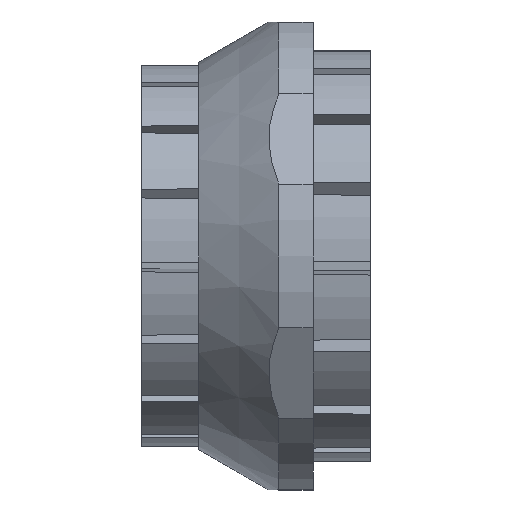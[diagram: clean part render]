
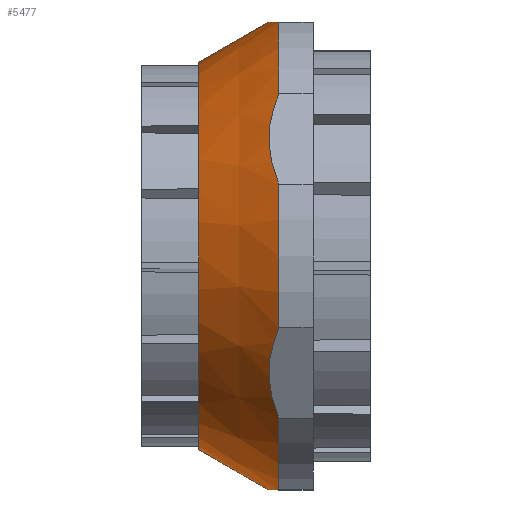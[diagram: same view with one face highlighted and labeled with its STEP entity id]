
A CAD part, left-side view. The second image highlights one B-rep face of the part: STEP entity #5477.
In plain terms, the highlighted conical face has half-angle 30 degrees and reference radius 16.959 mm.
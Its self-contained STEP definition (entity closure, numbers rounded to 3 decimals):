
#77 = VERTEX_POINT ( 'NONE', #5038 ) ;
#135 = VERTEX_POINT ( 'NONE', #1113 ) ;
#153 = ORIENTED_EDGE ( 'NONE', *, *, #618, .T. ) ;
#189 = CARTESIAN_POINT ( 'NONE',  ( 0., 35., -16.959 ) ) ;
#208 = CARTESIAN_POINT ( 'NONE',  ( -4.555, 28., -20.5 ) ) ;
#322 = CIRCLE ( 'NONE', #3426, 16.959 ) ;
#351 = VERTEX_POINT ( 'NONE', #5191 ) ;
#353 = CARTESIAN_POINT ( 'NONE',  ( -16.409, 28.568, 12.579 ) ) ;
#417 = AXIS2_PLACEMENT_3D ( 'NONE', #2520, #5686, #4769 ) ;
#463 = CARTESIAN_POINT ( 'NONE',  ( -18.529, 28.789, -8.907 ) ) ;
#550 = DIRECTION ( 'NONE',  ( 0., 0., -1. ) ) ;
#566 = ORIENTED_EDGE ( 'NONE', *, *, #3073, .T. ) ;
#580 = DIRECTION ( 'NONE',  ( 0., 1., 0. ) ) ;
#618 = EDGE_CURVE ( 'NONE', #5499, #77, #5078, .T. ) ;
#772 = DIRECTION ( 'NONE',  ( 0., 0., -1. ) ) ;
#840 = ORIENTED_EDGE ( 'NONE', *, *, #3228, .T. ) ;
#848 = CARTESIAN_POINT ( 'NONE',  ( -15.842, 28.275, -13.56 ) ) ;
#855 = CARTESIAN_POINT ( 'NONE',  ( -4.555, 28., 20.5 ) ) ;
#881 = EDGE_CURVE ( 'NONE', #1557, #3248, #322, .T. ) ;
#922 = CARTESIAN_POINT ( 'NONE',  ( -17.362, 28.846, -10.927 ) ) ;
#1016 = DIRECTION ( 'NONE',  ( 0., -0.866, 0.5 ) ) ;
#1113 = CARTESIAN_POINT ( 'NONE',  ( 0., 28.866, -20.5 ) ) ;
#1213 = VERTEX_POINT ( 'NONE', #2539 ) ;
#1259 = CARTESIAN_POINT ( 'NONE',  ( -16.22, 28.477, 12.906 ) ) ;
#1276 = CARTESIAN_POINT ( 'NONE',  ( -17.948, 28.866, 9.913 ) ) ;
#1302 = DIRECTION ( 'NONE',  ( 0., 0., -1. ) ) ;
#1313 = CARTESIAN_POINT ( 'NONE',  ( -19.848, 28.138, -6.623 ) ) ;
#1331 = VERTEX_POINT ( 'NONE', #4484 ) ;
#1357 = CARTESIAN_POINT ( 'NONE',  ( -20.031, 28., -6.305 ) ) ;
#1365 = VERTEX_POINT ( 'NONE', #855 ) ;
#1440 = CARTESIAN_POINT ( 'NONE',  ( 0., 28.866, 20.5 ) ) ;
#1446 = DIRECTION ( 'NONE',  ( 0., 0., -1. ) ) ;
#1533 = EDGE_CURVE ( 'NONE', #1365, #351, #3199, .T. ) ;
#1557 = VERTEX_POINT ( 'NONE', #2684 ) ;
#1586 = CIRCLE ( 'NONE', #1685, 21. ) ;
#1685 = AXIS2_PLACEMENT_3D ( 'NONE', #5783, #3003, #772 ) ;
#1724 = CARTESIAN_POINT ( 'NONE',  ( -15.659, 28.138, 13.877 ) ) ;
#1769 = CARTESIAN_POINT ( 'NONE',  ( -19.287, 28.477, -7.594 ) ) ;
#1825 = EDGE_CURVE ( 'NONE', #4944, #5499, #1586, .T. ) ;
#1900 = LINE ( 'NONE', #2358, #4469 ) ;
#1907 = DIRECTION ( 'NONE',  ( 0., -1., 0. ) ) ;
#1948 = CARTESIAN_POINT ( 'NONE',  ( 0., 35., 0. ) ) ;
#1963 = ORIENTED_EDGE ( 'NONE', *, *, #2760, .T. ) ;
#2029 = CARTESIAN_POINT ( 'NONE',  ( -20.031, 28., 6.305 ) ) ;
#2091 = CARTESIAN_POINT ( 'NONE',  ( -19.665, 28.275, 6.94 ) ) ;
#2136 = EDGE_CURVE ( 'NONE', #1557, #135, #5689, .T. ) ;
#2165 = ORIENTED_EDGE ( 'NONE', *, *, #1825, .T. ) ;
#2187 = CARTESIAN_POINT ( 'NONE',  ( -17.559, 28.866, -10.587 ) ) ;
#2236 = DIRECTION ( 'NONE',  ( 0., 1., 0. ) ) ;
#2349 = CIRCLE ( 'NONE', #5711, 21. ) ;
#2358 = CARTESIAN_POINT ( 'NONE',  ( 0., 35., 16.959 ) ) ;
#2367 = B_SPLINE_CURVE_WITH_KNOTS ( 'NONE', 3,
 ( #4573, #2395, #4237, #208 ),
 .UNSPECIFIED., .F., .F.,
 ( 4, 4 ),
 ( 0., 0.005 ),
 .UNSPECIFIED. ) ;
#2395 = CARTESIAN_POINT ( 'NONE',  ( -1.573, 28.866, -20.5 ) ) ;
#2520 = CARTESIAN_POINT ( 'NONE',  ( 0., 28., 0. ) ) ;
#2539 = CARTESIAN_POINT ( 'NONE',  ( -4.555, 28., -20.5 ) ) ;
#2678 = CARTESIAN_POINT ( 'NONE',  ( -18.144, 28.866, -9.573 ) ) ;
#2684 = CARTESIAN_POINT ( 'NONE',  ( 0., 35., -16.959 ) ) ;
#2707 = CARTESIAN_POINT ( 'NONE',  ( -3.087, 28.552, 20.5 ) ) ;
#2752 = CARTESIAN_POINT ( 'NONE',  ( -1.573, 28.866, 20.5 ) ) ;
#2760 = EDGE_CURVE ( 'NONE', #77, #1365, #2349, .T. ) ;
#2816 = CARTESIAN_POINT ( 'NONE',  ( 0., 35., 0. ) ) ;
#2869 = ORIENTED_EDGE ( 'NONE', *, *, #881, .F. ) ;
#2898 = DIRECTION ( 'NONE',  ( 0., -0.866, -0.5 ) ) ;
#2916 = ORIENTED_EDGE ( 'NONE', *, *, #2136, .T. ) ;
#3003 = DIRECTION ( 'NONE',  ( 0., 1., 0. ) ) ;
#3073 = EDGE_CURVE ( 'NONE', #1331, #4944, #3159, .T. ) ;
#3075 = CARTESIAN_POINT ( 'NONE',  ( -19.098, 28.568, -7.921 ) ) ;
#3129 = ORIENTED_EDGE ( 'NONE', *, *, #4540, .F. ) ;
#3133 = CARTESIAN_POINT ( 'NONE',  ( -19.662, 28.262, -6.945 ) ) ;
#3159 = B_SPLINE_CURVE_WITH_KNOTS ( 'NONE', 3,
 ( #3624, #848, #4004, #4025, #4960, #922, #2187, #2678, #463, #3075, #1769, #3133, #1313, #1357 ),
 .UNSPECIFIED., .F., .F.,
 ( 4, 2, 2, 2, 2, 2, 4 ),
 ( 0., 0.002, 0.003, 0.005, 0.007, 0.008, 0.009 ),
 .UNSPECIFIED. ) ;
#3198 = EDGE_LOOP ( 'NONE', ( #3129, #2869, #2916, #840, #3685, #566, #2165, #153, #1963, #5106 ) ) ;
#3199 = B_SPLINE_CURVE_WITH_KNOTS ( 'NONE', 3,
 ( #4148, #2707, #2752, #1440 ),
 .UNSPECIFIED., .F., .F.,
 ( 4, 4 ),
 ( -0.005, 0. ),
 .UNSPECIFIED. ) ;
#3228 = EDGE_CURVE ( 'NONE', #135, #1213, #2367, .T. ) ;
#3248 = VERTEX_POINT ( 'NONE', #3350 ) ;
#3350 = CARTESIAN_POINT ( 'NONE',  ( 0., 35., 16.959 ) ) ;
#3396 = CARTESIAN_POINT ( 'NONE',  ( -18.145, 28.846, 9.573 ) ) ;
#3426 = AXIS2_PLACEMENT_3D ( 'NONE', #2816, #580, #1446 ) ;
#3559 = CARTESIAN_POINT ( 'NONE',  ( -15.845, 28.262, 13.555 ) ) ;
#3624 = CARTESIAN_POINT ( 'NONE',  ( -15.476, 28., -14.195 ) ) ;
#3678 = CARTESIAN_POINT ( 'NONE',  ( -20.031, 28., -6.305 ) ) ;
#3685 = ORIENTED_EDGE ( 'NONE', *, *, #4593, .T. ) ;
#4004 = CARTESIAN_POINT ( 'NONE',  ( -16.215, 28.492, -12.915 ) ) ;
#4025 = CARTESIAN_POINT ( 'NONE',  ( -16.784, 28.714, -11.929 ) ) ;
#4148 = CARTESIAN_POINT ( 'NONE',  ( -4.555, 28., 20.5 ) ) ;
#4185 = FACE_OUTER_BOUND ( 'NONE', #3198, .T. ) ;
#4237 = CARTESIAN_POINT ( 'NONE',  ( -3.087, 28.552, -20.5 ) ) ;
#4433 = CONICAL_SURFACE ( 'NONE', #4633, 16.959, 0.524 ) ;
#4469 = VECTOR ( 'NONE', #1016, 1000. ) ;
#4471 = CARTESIAN_POINT ( 'NONE',  ( -17.363, 28.866, 10.927 ) ) ;
#4484 = CARTESIAN_POINT ( 'NONE',  ( -15.476, 28., -14.195 ) ) ;
#4540 = EDGE_CURVE ( 'NONE', #3248, #351, #1900, .T. ) ;
#4573 = CARTESIAN_POINT ( 'NONE',  ( 0., 28.866, -20.5 ) ) ;
#4593 = EDGE_CURVE ( 'NONE', #1213, #1331, #4754, .T. ) ;
#4633 = AXIS2_PLACEMENT_3D ( 'NONE', #1948, #1907, #550 ) ;
#4754 = CIRCLE ( 'NONE', #417, 21. ) ;
#4769 = DIRECTION ( 'NONE',  ( 0., 0., -1. ) ) ;
#4829 = CARTESIAN_POINT ( 'NONE',  ( -19.292, 28.492, 7.585 ) ) ;
#4868 = CARTESIAN_POINT ( 'NONE',  ( -15.476, 28., 14.195 ) ) ;
#4921 = VECTOR ( 'NONE', #2898, 1000. ) ;
#4944 = VERTEX_POINT ( 'NONE', #3678 ) ;
#4960 = CARTESIAN_POINT ( 'NONE',  ( -16.976, 28.77, -11.598 ) ) ;
#5038 = CARTESIAN_POINT ( 'NONE',  ( -15.476, 28., 14.195 ) ) ;
#5078 = B_SPLINE_CURVE_WITH_KNOTS ( 'NONE', 3,
 ( #2029, #2091, #4829, #5207, #5653, #3396, #1276, #4471, #5753, #353, #1259, #3559, #1724, #4868 ),
 .UNSPECIFIED., .F., .F.,
 ( 4, 2, 2, 2, 2, 2, 4 ),
 ( 0., 0.002, 0.003, 0.005, 0.007, 0.008, 0.009 ),
 .UNSPECIFIED. ) ;
#5106 = ORIENTED_EDGE ( 'NONE', *, *, #1533, .T. ) ;
#5191 = CARTESIAN_POINT ( 'NONE',  ( 0., 28.866, 20.5 ) ) ;
#5207 = CARTESIAN_POINT ( 'NONE',  ( -18.723, 28.714, 8.571 ) ) ;
#5477 = ADVANCED_FACE ( 'NONE', ( #4185 ), #4433, .T. ) ;
#5499 = VERTEX_POINT ( 'NONE', #5562 ) ;
#5562 = CARTESIAN_POINT ( 'NONE',  ( -20.031, 28., 6.305 ) ) ;
#5653 = CARTESIAN_POINT ( 'NONE',  ( -18.532, 28.77, 8.902 ) ) ;
#5686 = DIRECTION ( 'NONE',  ( 0., 1., 0. ) ) ;
#5689 = LINE ( 'NONE', #189, #4921 ) ;
#5711 = AXIS2_PLACEMENT_3D ( 'NONE', #5824, #2236, #1302 ) ;
#5753 = CARTESIAN_POINT ( 'NONE',  ( -16.978, 28.789, 11.593 ) ) ;
#5783 = CARTESIAN_POINT ( 'NONE',  ( 0., 28., 0. ) ) ;
#5824 = CARTESIAN_POINT ( 'NONE',  ( 0., 28., 0. ) ) ;
